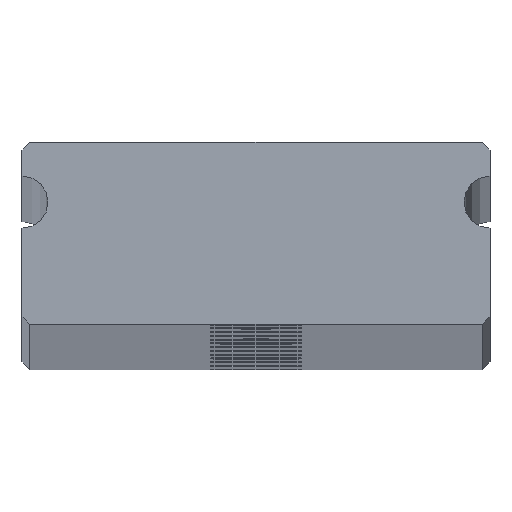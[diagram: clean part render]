
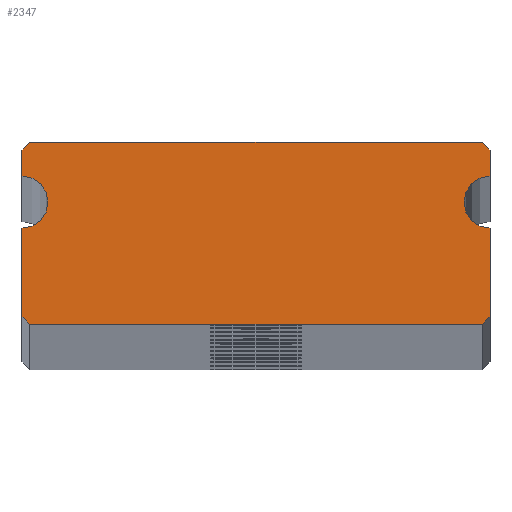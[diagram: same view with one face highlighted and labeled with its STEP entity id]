
A CAD part, top view. The second image highlights one B-rep face of the part: STEP entity #2347.
In plain terms, the highlighted planar face has unit normal (0, 0, 1).
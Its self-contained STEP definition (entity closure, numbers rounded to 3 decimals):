
#65 = EDGE_CURVE ( 'NONE', #3945, #1790, #847, .T. ) ;
#115 = LINE ( 'NONE', #2771, #4493 ) ;
#141 = ORIENTED_EDGE ( 'NONE', *, *, #5329, .T. ) ;
#178 = DIRECTION ( 'NONE',  ( 0., 1., 0. ) ) ;
#187 = CARTESIAN_POINT ( 'NONE',  ( -8.735, 3.327, 1000. ) ) ;
#192 = VERTEX_POINT ( 'NONE', #3875 ) ;
#221 = CARTESIAN_POINT ( 'NONE',  ( 9.265, 3.327, 1000. ) ) ;
#327 = ORIENTED_EDGE ( 'NONE', *, *, #2157, .T. ) ;
#349 = ORIENTED_EDGE ( 'NONE', *, *, #3094, .T. ) ;
#354 = VERTEX_POINT ( 'NONE', #3390 ) ;
#364 = CARTESIAN_POINT ( 'NONE',  ( -8.735, 2.327, 1000. ) ) ;
#395 = VECTOR ( 'NONE', #178, 1000. ) ;
#451 = DIRECTION ( 'NONE',  ( 0., 0., -1. ) ) ;
#549 = EDGE_CURVE ( 'NONE', #3087, #1293, #2437, .T. ) ;
#552 = CARTESIAN_POINT ( 'NONE',  ( 8.965, 3.627, 1000. ) ) ;
#565 = AXIS2_PLACEMENT_3D ( 'NONE', #2046, #4160, #4632 ) ;
#601 = AXIS2_PLACEMENT_3D ( 'NONE', #5562, #451, #2074 ) ;
#734 = EDGE_CURVE ( 'NONE', #2911, #3945, #3043, .T. ) ;
#796 = EDGE_CURVE ( 'NONE', #4533, #2911, #955, .T. ) ;
#847 = LINE ( 'NONE', #3081, #3042 ) ;
#955 = LINE ( 'NONE', #3101, #5033 ) ;
#999 = EDGE_CURVE ( 'NONE', #2636, #1008, #3317, .T. ) ;
#1008 = VERTEX_POINT ( 'NONE', #3214 ) ;
#1119 = EDGE_CURVE ( 'NONE', #2480, #192, #3807, .T. ) ;
#1203 = LINE ( 'NONE', #3777, #2249 ) ;
#1293 = VERTEX_POINT ( 'NONE', #3186 ) ;
#1390 = CARTESIAN_POINT ( 'NONE',  ( 9.265, 1.327, 1000. ) ) ;
#1466 = AXIS2_PLACEMENT_3D ( 'NONE', #1390, #3089, #2673 ) ;
#1541 = CARTESIAN_POINT ( 'NONE',  ( 9.265, -3.073, 1000. ) ) ;
#1627 = ORIENTED_EDGE ( 'NONE', *, *, #734, .T. ) ;
#1652 = DIRECTION ( 'NONE',  ( 0.707, -0.707, 0. ) ) ;
#1710 = CARTESIAN_POINT ( 'NONE',  ( 8.965, -3.373, 1000. ) ) ;
#1736 = VECTOR ( 'NONE', #4121, 1000. ) ;
#1738 = FACE_OUTER_BOUND ( 'NONE', #4875, .T. ) ;
#1790 = VERTEX_POINT ( 'NONE', #2293 ) ;
#1929 = CARTESIAN_POINT ( 'NONE',  ( -8.435, 3.627, 1000. ) ) ;
#2046 = CARTESIAN_POINT ( 'NONE',  ( -8.735, 1.327, 1000. ) ) ;
#2052 = CARTESIAN_POINT ( 'NONE',  ( 9.265, 3.327, 1000. ) ) ;
#2074 = DIRECTION ( 'NONE',  ( 1., 0., 0. ) ) ;
#2157 = EDGE_CURVE ( 'NONE', #1293, #4803, #2259, .T. ) ;
#2169 = AXIS2_PLACEMENT_3D ( 'NONE', #5233, #3837, #2569 ) ;
#2249 = VECTOR ( 'NONE', #1652, 1000. ) ;
#2259 = LINE ( 'NONE', #552, #4561 ) ;
#2293 = CARTESIAN_POINT ( 'NONE',  ( 9.265, 0.327, 1000. ) ) ;
#2296 = CARTESIAN_POINT ( 'NONE',  ( 8.965, -3.373, 1000. ) ) ;
#2311 = ORIENTED_EDGE ( 'NONE', *, *, #549, .T. ) ;
#2347 = ADVANCED_FACE ( 'NONE', ( #1738 ), #3931, .T. ) ;
#2351 = LINE ( 'NONE', #1929, #1736 ) ;
#2437 = LINE ( 'NONE', #2052, #3677 ) ;
#2440 = ORIENTED_EDGE ( 'NONE', *, *, #65, .T. ) ;
#2480 = VERTEX_POINT ( 'NONE', #3547 ) ;
#2509 = ORIENTED_EDGE ( 'NONE', *, *, #4427, .T. ) ;
#2569 = DIRECTION ( 'NONE',  ( 1., 0., 0. ) ) ;
#2636 = VERTEX_POINT ( 'NONE', #364 ) ;
#2673 = DIRECTION ( 'NONE',  ( 1., 0., 0. ) ) ;
#2771 = CARTESIAN_POINT ( 'NONE',  ( -8.735, 0.327, 1000. ) ) ;
#2821 = CARTESIAN_POINT ( 'NONE',  ( -8.435, -3.373, 1000. ) ) ;
#2835 = EDGE_CURVE ( 'NONE', #3382, #2636, #3008, .T. ) ;
#2911 = VERTEX_POINT ( 'NONE', #2296 ) ;
#3008 = LINE ( 'NONE', #3429, #3893 ) ;
#3042 = VECTOR ( 'NONE', #4763, 1000. ) ;
#3043 = LINE ( 'NONE', #1710, #3493 ) ;
#3081 = CARTESIAN_POINT ( 'NONE',  ( 9.265, -3.073, 1000. ) ) ;
#3087 = VERTEX_POINT ( 'NONE', #221 ) ;
#3089 = DIRECTION ( 'NONE',  ( 0., 0., -1. ) ) ;
#3094 = EDGE_CURVE ( 'NONE', #4803, #3382, #2351, .T. ) ;
#3101 = CARTESIAN_POINT ( 'NONE',  ( -8.435, -3.373, 1000. ) ) ;
#3140 = DIRECTION ( 'NONE',  ( -1., 0., 0. ) ) ;
#3186 = CARTESIAN_POINT ( 'NONE',  ( 8.965, 3.627, 1000. ) ) ;
#3214 = CARTESIAN_POINT ( 'NONE',  ( -8.735, 0.327, 1000. ) ) ;
#3310 = EDGE_CURVE ( 'NONE', #1790, #2480, #3887, .T. ) ;
#3317 = CIRCLE ( 'NONE', #565, 1. ) ;
#3382 = VERTEX_POINT ( 'NONE', #187 ) ;
#3390 = CARTESIAN_POINT ( 'NONE',  ( -8.735, -3.073, 1000. ) ) ;
#3429 = CARTESIAN_POINT ( 'NONE',  ( -8.735, 3.327, 1000. ) ) ;
#3493 = VECTOR ( 'NONE', #5119, 1000. ) ;
#3547 = CARTESIAN_POINT ( 'NONE',  ( 8.265, 1.327, 1000. ) ) ;
#3677 = VECTOR ( 'NONE', #5481, 1000. ) ;
#3777 = CARTESIAN_POINT ( 'NONE',  ( -8.735, -3.073, 1000. ) ) ;
#3805 = ORIENTED_EDGE ( 'NONE', *, *, #999, .T. ) ;
#3807 = CIRCLE ( 'NONE', #601, 1. ) ;
#3837 = DIRECTION ( 'NONE',  ( 0., 0., 1. ) ) ;
#3842 = EDGE_CURVE ( 'NONE', #192, #3087, #4818, .T. ) ;
#3875 = CARTESIAN_POINT ( 'NONE',  ( 9.265, 2.327, 1000. ) ) ;
#3887 = CIRCLE ( 'NONE', #1466, 1. ) ;
#3893 = VECTOR ( 'NONE', #5076, 1000. ) ;
#3931 = PLANE ( 'NONE',  #2169 ) ;
#3945 = VERTEX_POINT ( 'NONE', #1541 ) ;
#4075 = DIRECTION ( 'NONE',  ( 0., -1., 0. ) ) ;
#4096 = CARTESIAN_POINT ( 'NONE',  ( -8.435, 3.627, 1000. ) ) ;
#4110 = ORIENTED_EDGE ( 'NONE', *, *, #796, .T. ) ;
#4121 = DIRECTION ( 'NONE',  ( -0.707, -0.707, 0. ) ) ;
#4134 = CARTESIAN_POINT ( 'NONE',  ( 9.265, 2.327, 1000. ) ) ;
#4160 = DIRECTION ( 'NONE',  ( 0., 0., -1. ) ) ;
#4427 = EDGE_CURVE ( 'NONE', #1008, #354, #115, .T. ) ;
#4493 = VECTOR ( 'NONE', #4075, 1000. ) ;
#4533 = VERTEX_POINT ( 'NONE', #2821 ) ;
#4561 = VECTOR ( 'NONE', #3140, 1000. ) ;
#4632 = DIRECTION ( 'NONE',  ( 1., 0., 0. ) ) ;
#4763 = DIRECTION ( 'NONE',  ( 0., 1., 0. ) ) ;
#4786 = ORIENTED_EDGE ( 'NONE', *, *, #2835, .T. ) ;
#4803 = VERTEX_POINT ( 'NONE', #4096 ) ;
#4818 = LINE ( 'NONE', #4134, #395 ) ;
#4872 = DIRECTION ( 'NONE',  ( 1., 0., 0. ) ) ;
#4875 = EDGE_LOOP ( 'NONE', ( #4917, #5551, #5532, #2311, #327, #349, #4786, #3805, #2509, #141, #4110, #1627, #2440 ) ) ;
#4917 = ORIENTED_EDGE ( 'NONE', *, *, #3310, .T. ) ;
#5033 = VECTOR ( 'NONE', #4872, 1000. ) ;
#5076 = DIRECTION ( 'NONE',  ( 0., -1., 0. ) ) ;
#5119 = DIRECTION ( 'NONE',  ( 0.707, 0.707, 0. ) ) ;
#5233 = CARTESIAN_POINT ( 'NONE',  ( 9.265, 1.327, 1000. ) ) ;
#5329 = EDGE_CURVE ( 'NONE', #354, #4533, #1203, .T. ) ;
#5481 = DIRECTION ( 'NONE',  ( -0.707, 0.707, 0. ) ) ;
#5532 = ORIENTED_EDGE ( 'NONE', *, *, #3842, .T. ) ;
#5551 = ORIENTED_EDGE ( 'NONE', *, *, #1119, .T. ) ;
#5562 = CARTESIAN_POINT ( 'NONE',  ( 9.265, 1.327, 1000. ) ) ;
